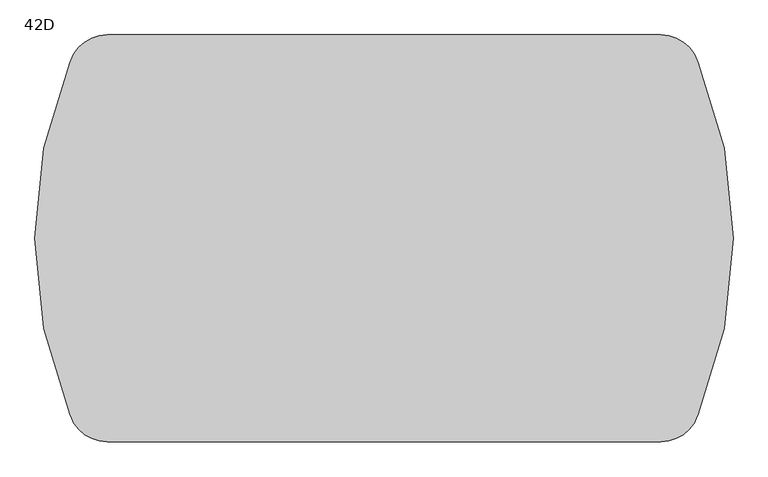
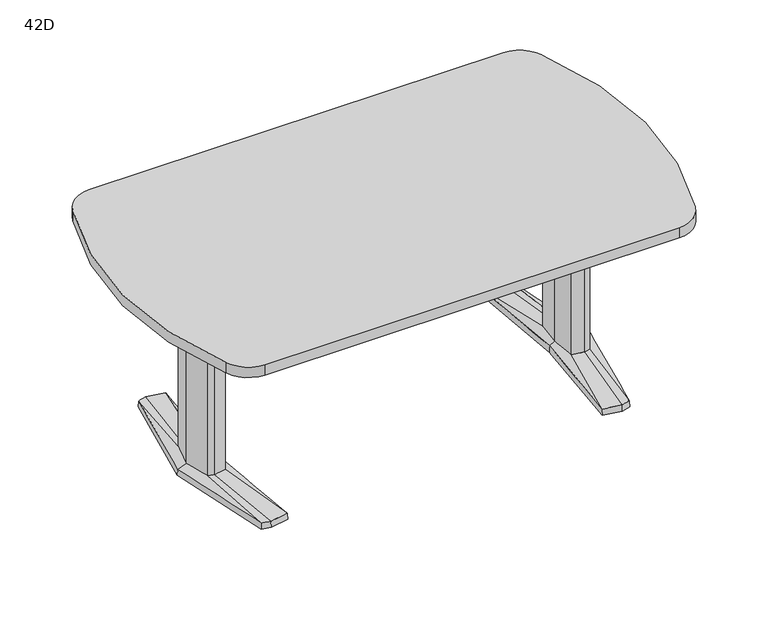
"""IFC4 building model written with IfcOpenShell, lengths in millimetres: furniture geometry, Coalesse_AM_Table_Conference_ETable2_SoftRadiused_72in_AluminiumBase : 42D."""

from ifc_helpers import new_model, si_unit, point, frame, frame_2d, origin, place, context, project, spatial, polyline, circle_curve, trimmed, segment, composite_curve, outline, extrude, source, transform, mapped, element, save
from ifc_brep_helpers import plane_surface, spline_surface, advanced_brep


def furniture_42d_55c07481(model_context):
    return source(origin(), model_context, "Body", "SolidModel", [
        advanced_brep(
        [(614.8503471, -379.3768856, 25.4), (644.5756636, -371.5332654, 25.4), (668.2327243, -89.293702, 36.5125), (648.9795254, -94.605478, 36.5125), (606.0521001, -87.0529327, 36.5125), (551.7612538, -368.5071562, 25.4), (597.9364207, 0.0, 36.5125), (579.8389754, 0.3970149, 25.4), (606.0521001, 87.0529327, 36.5125), (551.7615002, 368.5172593, 25.4), (648.9795254, 94.605478, 36.5125), (614.8502233, 379.3769183, 25.4), (668.2327243, 89.293702, 36.5125), (644.7535458, 371.4863276, 25.4), (692.1595251, 0.0, 36.5125), (721.4851663, 0.0003516, 25.4), (578.2468742, 0.3968871, 3.175), (550.06875, 369.8367279, 3.175), (614.9213004, 381.0, 3.175), (646.1093245, 372.7704151, 3.175), (723.10625, 0.0, 3.175), (645.9309817, -372.8174744, 3.175), (614.9213004, -381.0, 3.175), (550.06875, -369.8264415, 3.175), (649.5979264, 107.6121478, 3.175), (594.3065451, 97.8843184, 3.175), (585.1810887, 0.0, 3.175), (594.3065451, -97.8843184, 3.175), (649.5979264, -107.6121478, 3.175), (678.6183473, -99.6056872, 3.175), (705.3083085, 0.0, 3.175), (678.6183473, 99.6056872, 3.175), (613.4286812, 346.9152841, 3.175), (557.7811371, 337.3364985, 3.175), (560.1889918, 324.8641942, 3.175), (612.8600644, 333.9306305, 3.175), (648.6725609, 324.4807859, 3.175), (647.5544526, 337.9105158, 3.175), (613.4286812, -346.9152841, 3.175), (647.5544526, -337.9105158, 3.175), (648.6725609, -324.4807859, 3.175), (612.8600644, -333.9306305, 3.175), (560.1889918, -324.8641942, 3.175), (557.7811371, -337.3364985, 3.175), (649.5979264, 107.6121478, 0.0), (678.6183473, 99.6056872, 0.0), (705.3083085, 0.0, 0.0), (678.6183473, -99.6056872, 0.0), (649.5979264, -107.6121478, 0.0), (594.3065451, -97.8843184, 0.0), (585.1810887, 0.0, 0.0), (594.3065451, 97.8843184, 0.0), (613.4286812, 346.9152841, 0.0), (647.5544526, 337.9105158, 0.0), (648.6725609, 324.4807859, 0.0), (612.8600644, 333.9306305, 0.0), (560.1889918, 324.8641942, 0.0), (557.7811371, 337.3364985, 0.0), (613.4286812, -346.9152841, 0.0), (557.7811371, -337.3364985, 0.0), (560.1889918, -324.8641942, 0.0), (612.8600644, -333.9306305, 0.0), (648.6725609, -324.4807859, 0.0), (647.5544526, -337.9105158, 0.0), (668.2327243, 89.293702, 698.5), (648.9795254, 94.605478, 698.5), (606.0521001, 87.0529327, 698.5), (597.9364207, 0.0, 698.5), (606.0521001, -87.0529327, 698.5), (648.9795254, -94.605478, 698.5), (668.2327243, -89.293702, 698.5), (692.1595251, 0.0, 698.5)],
        [
            (0, 1),
            (1, 2),
            (2, 3),
            (3, 0),
            (3, 4),
            (4, 5),
            (5, 0),
            (4, 6),
            (6, 7),
            (7, 5),
            (6, 8),
            (8, 9),
            (9, 7),
            (8, 10),
            (10, 11),
            (11, 9),
            (10, 12),
            (12, 13),
            (13, 11),
            (12, 14),
            (14, 15),
            (15, 13),
            (1, 15),
            (14, 2),
            (16, 17),
            (17, 18),
            (18, 19),
            (19, 20),
            (20, 21),
            (21, 22),
            (22, 23),
            (23, 16),
            (24, 25),
            (25, 26),
            (26, 27),
            (27, 28),
            (28, 29),
            (29, 30),
            (30, 31),
            (31, 24),
            (32, 33),
            (33, 34),
            (34, 35),
            (35, 36),
            (36, 37),
            (37, 32),
            (38, 39),
            (39, 40),
            (40, 41),
            (41, 42),
            (42, 43),
            (43, 38),
            (16, 7),
            (9, 17),
            (11, 18),
            (13, 19),
            (15, 20),
            (1, 21),
            (0, 22),
            (5, 23),
            (44, 45),
            (45, 46),
            (46, 47),
            (47, 48),
            (48, 49),
            (49, 50),
            (50, 51),
            (51, 44),
            (52, 53),
            (53, 54),
            (54, 55),
            (55, 56),
            (56, 57),
            (57, 52),
            (58, 59),
            (59, 60),
            (60, 61),
            (61, 62),
            (62, 63),
            (63, 58),
            (44, 24),
            (31, 45),
            (30, 46),
            (29, 47),
            (28, 48),
            (27, 49),
            (26, 50),
            (25, 51),
            (52, 32),
            (37, 53),
            (36, 54),
            (35, 55),
            (34, 56),
            (33, 57),
            (58, 38),
            (43, 59),
            (42, 60),
            (41, 61),
            (40, 62),
            (39, 63),
            (64, 65),
            (65, 66),
            (66, 67),
            (67, 68),
            (68, 69),
            (69, 70),
            (70, 71),
            (71, 64),
            (71, 14),
            (12, 64),
            (70, 2),
            (69, 3),
            (68, 4),
            (67, 6),
            (66, 8),
            (65, 10),
        ],
        [
            spline_surface(1, 1, [[(644.5756636, -371.5332654, 25.4), (614.8503471, -379.3768856, 25.4)], [(668.2327243, -89.293702, 36.5125), (648.9795254, -94.605478, 36.5125)]], [2, 2], [2, 2], [0.0, 1.0], [0.0, 1.0]),
            spline_surface(1, 1, [[(614.8503471, -379.3768856, 25.4), (551.7612538, -368.5071562, 25.4)], [(648.9795254, -94.605478, 36.5125), (606.0521001, -87.0529327, 36.5125)]], [2, 2], [2, 2], [0.0, 1.0], [0.0, 1.0]),
            spline_surface(1, 1, [[(551.7612538, -368.5071562, 25.4), (579.8389754, 0.3970149, 25.4)], [(606.0521001, -87.0529327, 36.5125), (597.9364207, 0.0, 36.5125)]], [2, 2], [2, 2], [0.0, 1.0], [0.0, 1.0]),
            spline_surface(1, 1, [[(579.8389754, 0.3970149, 25.4), (551.7615002, 368.5172593, 25.4)], [(597.9364207, 0.0, 36.5125), (606.0521001, 87.0529327, 36.5125)]], [2, 2], [2, 2], [0.0, 1.0], [0.0, 1.0]),
            spline_surface(1, 1, [[(551.7615002, 368.5172593, 25.4), (614.8502233, 379.3769183, 25.4)], [(606.0521001, 87.0529327, 36.5125), (648.9795254, 94.605478, 36.5125)]], [2, 2], [2, 2], [0.0, 1.0], [0.0, 1.0]),
            spline_surface(1, 1, [[(614.8502233, 379.3769183, 25.4), (644.7535458, 371.4863276, 25.4)], [(648.9795254, 94.605478, 36.5125), (668.2327243, 89.293702, 36.5125)]], [2, 2], [2, 2], [0.0, 1.0], [0.0, 1.0]),
            spline_surface(1, 1, [[(644.7535458, 371.4863276, 25.4), (721.4851663, 0.0003516, 25.4)], [(668.2327243, 89.293702, 36.5125), (692.1595251, 0.0, 36.5125)]], [2, 2], [2, 2], [0.0, 1.0], [0.0, 1.0]),
            spline_surface(1, 1, [[(721.4851663, 0.0003516, 25.4), (644.5756636, -371.5332654, 25.4)], [(692.1595251, 0.0, 36.5125), (668.2327243, -89.293702, 36.5125)]], [2, 2], [2, 2], [0.0, 1.0], [0.0, 1.0]),
            plane_surface(frame((615.4216914, 0.0450143, 3.175), z_axis=(0.0, 0.0, -1.0), x_axis=(-0.9669048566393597, -0.2551372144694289, 0.0))),
            plane_surface(frame((564.1578121, 185.1168075, 3.175), z_axis=(-0.9945699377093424, -0.07585840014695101, 0.0712470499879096), x_axis=(-0.07605167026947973, 0.9971038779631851, 0.0))),
            plane_surface(frame((582.4950252, 375.418364, 3.175), z_axis=(-0.1692071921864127, 0.9830019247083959, 0.07124704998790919), x_axis=(0.985506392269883, 0.16963829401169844, 0.0))),
            plane_surface(frame((630.5153124, 376.8852076, 3.175), z_axis=(0.2544888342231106, 0.9644476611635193, 0.07124704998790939), x_axis=(0.9669048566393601, -0.25513721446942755, 0.0))),
            plane_surface(frame((684.6077872, 186.3852076, 3.175), z_axis=(0.9768383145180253, 0.2017690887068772, 0.07124704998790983), x_axis=(0.20228315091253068, -0.9793270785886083, 0.0))),
            plane_surface(frame((684.5186158, -186.4087372, 3.175), z_axis=(0.9767507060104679, -0.20219276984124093, 0.07124704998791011), x_axis=(-0.2027079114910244, -0.9792392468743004, 0.0))),
            plane_surface(frame((630.426141, -376.9087372, 3.175), z_axis=(0.2544888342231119, -0.9644476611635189, 0.0712470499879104), x_axis=(-0.9669048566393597, -0.2551372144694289, 0.0))),
            plane_surface(frame((582.4950252, -375.4132207, 3.175), z_axis=(-0.16935861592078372, -0.982975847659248, 0.07124704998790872), x_axis=(-0.9854802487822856, 0.16979010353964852, 0.0))),
            plane_surface(frame((564.1578121, -184.7147772, 3.175), z_axis=(-0.9945820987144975, 0.07569878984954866, 0.07124704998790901), x_axis=(0.07589165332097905, 0.9971160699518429, 0.0))),
            plane_surface(frame((652.3571479, 106.8509046, 0.0), z_axis=(0.0, 0.0, -1.0000000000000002), x_axis=(-0.9639855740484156, 0.26595453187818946, 0.0))),
            plane_surface(frame((649.5979264, 107.6121478, 3.175), z_axis=(0.26595453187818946, 0.9639855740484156, 0.0), x_axis=(0.0, 0.0, -1.0))),
            plane_surface(frame((678.6183473, 99.6056872, 3.175), z_axis=(0.9659241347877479, 0.2588253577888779, 0.0), x_axis=(0.0, 0.0, -1.0))),
            plane_surface(frame((705.3083085, 0.0, 3.175), z_axis=(0.9659241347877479, -0.2588253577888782, 0.0), x_axis=(0.0, 0.0, -1.0))),
            plane_surface(frame((678.6183473, -99.6056872, 3.175), z_axis=(0.26595453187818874, -0.9639855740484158, 0.0), x_axis=(0.0, 0.0, -1.0))),
            plane_surface(frame((649.5979264, -107.6121478, 3.175), z_axis=(-0.17327617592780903, -0.9848732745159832, 0.0), x_axis=(0.0, 0.0, -1.0))),
            plane_surface(frame((594.3065451, -97.8843184, 3.175), z_axis=(-0.9956824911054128, -0.0928244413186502, 0.0), x_axis=(0.0, 0.0, -1.0))),
            plane_surface(frame((585.1810887, 0.0, 3.175), z_axis=(-0.9956824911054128, 0.09282444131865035, 0.0), x_axis=(0.0, 0.0, -1.0))),
            plane_surface(frame((594.3065451, 97.8843184, 3.175), z_axis=(-0.17327617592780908, 0.984873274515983, 0.0), x_axis=(0.0, 0.0, -1.0))),
            plane_surface(frame((613.4286812, 346.9152841, 3.175), z_axis=(0.25513721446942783, 0.9669048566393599, 0.0), x_axis=(0.0, 0.0, -1.0))),
            plane_surface(frame((647.5544526, 337.9105158, 3.175), z_axis=(0.9965521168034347, 0.0829691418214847, 0.0), x_axis=(0.0, 0.0, -1.0))),
            plane_surface(frame((648.6725609, 324.4807859, 3.175), z_axis=(-0.25513721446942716, -0.9669048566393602, 0.0), x_axis=(0.0, 0.0, -1.0))),
            plane_surface(frame((612.8600644, 333.9306305, 3.175), z_axis=(0.16963829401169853, -0.985506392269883, 0.0), x_axis=(0.0, 0.0, -1.0))),
            plane_surface(frame((560.1889918, 324.8641942, 3.175), z_axis=(-0.9818699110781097, -0.18955600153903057, 0.0), x_axis=(0.0, 0.0, -1.0))),
            plane_surface(frame((557.7811371, 337.3364985, 3.175), z_axis=(-0.16963829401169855, 0.9855063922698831, 0.0), x_axis=(0.0, 0.0, -1.0))),
            plane_surface(frame((613.4286812, -346.9152841, 3.175), z_axis=(-0.1696382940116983, -0.9855063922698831, 0.0), x_axis=(0.0, 0.0, -1.0))),
            plane_surface(frame((557.7811371, -337.3364985, 3.175), z_axis=(-0.9818699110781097, 0.18955600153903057, 0.0), x_axis=(0.0, 0.0, -1.0))),
            plane_surface(frame((560.1889918, -324.8641942, 3.175), z_axis=(0.16963829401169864, 0.985506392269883, 0.0), x_axis=(0.0, 0.0, -1.0))),
            plane_surface(frame((612.8600644, -333.9306305, 3.175), z_axis=(-0.2551372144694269, 0.9669048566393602, 0.0), x_axis=(0.0, 0.0, -1.0))),
            plane_surface(frame((648.6725609, -324.4807859, 3.175), z_axis=(0.9965521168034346, -0.0829691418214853, 0.0), x_axis=(0.0, 0.0, -1.0))),
            plane_surface(frame((647.5544526, -337.9105158, 3.175), z_axis=(0.2551372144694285, -0.9669048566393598, 0.0), x_axis=(0.0, 0.0, -1.0))),
            plane_surface(frame((692.1595251, 0.0, 698.5), z_axis=(0.0, 0.0, 1.0), x_axis=(0.25882535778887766, -0.965924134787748, 0.0))),
            plane_surface(frame((668.2327243, 89.293702, 698.5), z_axis=(0.965924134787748, 0.25882535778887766, 0.0), x_axis=(0.0, 0.0, -1.0))),
            plane_surface(frame((692.1595251, 0.0, 698.5), z_axis=(0.965924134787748, -0.2588253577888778, 0.0), x_axis=(0.0, 0.0, -1.0))),
            plane_surface(frame((668.2327243, -89.293702, 698.5), z_axis=(0.2659545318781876, -0.963985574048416, 0.0), x_axis=(0.0, 0.0, -1.0))),
            plane_surface(frame((648.9795254, -94.605478, 698.5), z_axis=(-0.1732761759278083, -0.9848732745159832, 0.0), x_axis=(0.0, 0.0, -1.0))),
            plane_surface(frame((606.0521001, -87.0529327, 698.5), z_axis=(-0.9956824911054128, -0.0928244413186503, 0.0), x_axis=(0.0, 0.0, -1.0))),
            plane_surface(frame((597.9364207, 0.0, 698.5), z_axis=(-0.9956824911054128, 0.09282444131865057, 0.0), x_axis=(0.0, 0.0, -1.0))),
            plane_surface(frame((606.0521001, 87.0529327, 698.5), z_axis=(-0.17327617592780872, 0.9848732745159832, 0.0), x_axis=(0.0, 0.0, -1.0))),
            plane_surface(frame((648.9795254, 94.605478, 698.5), z_axis=(0.26595453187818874, 0.9639855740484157, 0.0), x_axis=(0.0, 0.0, -1.0))),
        ],
        [
            (0, [[1, 2, 3, 4]]),
            (1, [[5, 6, 7, -4]]),
            (2, [[8, 9, 10, -6]]),
            (3, [[11, 12, 13, -9]]),
            (4, [[14, 15, 16, -12]]),
            (5, [[17, 18, 19, -15]]),
            (6, [[20, 21, 22, -18]]),
            (7, [[23, -21, 24, -2]]),
            (8, [[25, 26, 27, 28, 29, 30, 31, 32], [33, 34, 35, 36, 37, 38, 39, 40], [41, 42, 43, 44, 45, 46], [47, 48, 49, 50, 51, 52]]),
            (9, [[53, -13, 54, -25]]),
            (10, [[-54, -16, 55, -26]]),
            (11, [[-55, -19, 56, -27]]),
            (12, [[-56, -22, 57, -28]]),
            (13, [[-57, -23, 58, -29]]),
            (14, [[-58, -1, 59, -30]]),
            (15, [[-59, -7, 60, -31]]),
            (16, [[-60, -10, -53, -32]]),
            (17, [[61, 62, 63, 64, 65, 66, 67, 68]]),
            (17, [[69, 70, 71, 72, 73, 74]]),
            (17, [[75, 76, 77, 78, 79, 80]]),
            (18, [[81, -40, 82, -61]]),
            (19, [[-82, -39, 83, -62]]),
            (20, [[-83, -38, 84, -63]]),
            (21, [[-84, -37, 85, -64]]),
            (22, [[-85, -36, 86, -65]]),
            (23, [[-86, -35, 87, -66]]),
            (24, [[-87, -34, 88, -67]]),
            (25, [[-88, -33, -81, -68]]),
            (26, [[89, -46, 90, -69]]),
            (27, [[-90, -45, 91, -70]]),
            (28, [[-91, -44, 92, -71]]),
            (29, [[-92, -43, 93, -72]]),
            (30, [[-93, -42, 94, -73]]),
            (31, [[-94, -41, -89, -74]]),
            (32, [[95, -52, 96, -75]]),
            (33, [[-96, -51, 97, -76]]),
            (34, [[-97, -50, 98, -77]]),
            (35, [[-98, -49, 99, -78]]),
            (36, [[-99, -48, 100, -79]]),
            (37, [[-100, -47, -95, -80]]),
            (38, [[101, 102, 103, 104, 105, 106, 107, 108]]),
            (39, [[109, -20, 110, -108]]),
            (40, [[111, -24, -109, -107]]),
            (41, [[112, -3, -111, -106]]),
            (42, [[113, -5, -112, -105]]),
            (43, [[114, -8, -113, -104]]),
            (44, [[115, -11, -114, -103]]),
            (45, [[116, -14, -115, -102]]),
            (46, [[-110, -17, -116, -101]]),
        ],
    ),
        advanced_brep(
        [(-614.8503471, -379.3768856, 25.4), (-648.9795254, -94.605478, 36.5125), (-668.2327243, -89.293702, 36.5125), (-644.5756636, -371.5332654, 25.4), (-551.7612538, -368.5071562, 25.4), (-606.0521001, -87.0529327, 36.5125), (-579.8389754, 0.3970149, 25.4), (-597.9364207, 0.0, 36.5125), (-551.7615002, 368.5172593, 25.4), (-606.0521001, 87.0529327, 36.5125), (-614.8502233, 379.3769183, 25.4), (-648.9795254, 94.605478, 36.5125), (-644.7535458, 371.4863276, 25.4), (-668.2327243, 89.293702, 36.5125), (-721.4851663, 0.0003516, 25.4), (-692.1595251, 0.0, 36.5125), (-578.2468742, 0.3968871, 3.175), (-550.06875, -369.8264415, 3.175), (-614.9213004, -381.0, 3.175), (-645.9309817, -372.8174744, 3.175), (-723.10625, 0.0, 3.175), (-646.1093245, 372.7704151, 3.175), (-614.9213004, 381.0, 3.175), (-550.06875, 369.8367279, 3.175), (-649.5979264, 107.6121478, 3.175), (-678.6183473, 99.6056872, 3.175), (-705.3083085, 0.0, 3.175), (-678.6183473, -99.6056872, 3.175), (-649.5979264, -107.6121478, 3.175), (-594.3065451, -97.8843184, 3.175), (-585.1810887, 0.0, 3.175), (-594.3065451, 97.8843184, 3.175), (-613.4286812, 346.9152841, 3.175), (-647.5544526, 337.9105158, 3.175), (-648.6725609, 324.4807859, 3.175), (-612.8600644, 333.9306305, 3.175), (-560.1889918, 324.8641942, 3.175), (-557.7811371, 337.3364985, 3.175), (-613.4286812, -346.9152841, 3.175), (-557.7811371, -337.3364985, 3.175), (-560.1889918, -324.8641942, 3.175), (-612.8600644, -333.9306305, 3.175), (-648.6725609, -324.4807859, 3.175), (-647.5544526, -337.9105158, 3.175), (-649.5979264, 107.6121478, 0.0), (-594.3065451, 97.8843184, 0.0), (-585.1810887, 0.0, 0.0), (-594.3065451, -97.8843184, 0.0), (-649.5979264, -107.6121478, 0.0), (-678.6183473, -99.6056872, 0.0), (-705.3083085, 0.0, 0.0), (-678.6183473, 99.6056872, 0.0), (-613.4286812, 346.9152841, 0.0), (-557.7811371, 337.3364985, 0.0), (-560.1889918, 324.8641942, 0.0), (-612.8600644, 333.9306305, 0.0), (-648.6725609, 324.4807859, 0.0), (-647.5544526, 337.9105158, 0.0), (-613.4286812, -346.9152841, 0.0), (-647.5544526, -337.9105158, 0.0), (-648.6725609, -324.4807859, 0.0), (-612.8600644, -333.9306305, 0.0), (-560.1889918, -324.8641942, 0.0), (-557.7811371, -337.3364985, 0.0), (-668.2327243, 89.293702, 698.5), (-692.1595251, 0.0, 698.5), (-668.2327243, -89.293702, 698.5), (-648.9795254, -94.605478, 698.5), (-606.0521001, -87.0529327, 698.5), (-597.9364207, 0.0, 698.5), (-606.0521001, 87.0529327, 698.5), (-648.9795254, 94.605478, 698.5)],
        [
            (0, 1),
            (1, 2),
            (2, 3),
            (3, 0),
            (0, 4),
            (4, 5),
            (5, 1),
            (4, 6),
            (6, 7),
            (7, 5),
            (6, 8),
            (8, 9),
            (9, 7),
            (8, 10),
            (10, 11),
            (11, 9),
            (10, 12),
            (12, 13),
            (13, 11),
            (12, 14),
            (14, 15),
            (15, 13),
            (2, 15),
            (14, 3),
            (16, 17),
            (17, 18),
            (18, 19),
            (19, 20),
            (20, 21),
            (21, 22),
            (22, 23),
            (23, 16),
            (24, 25),
            (25, 26),
            (26, 27),
            (27, 28),
            (28, 29),
            (29, 30),
            (30, 31),
            (31, 24),
            (32, 33),
            (33, 34),
            (34, 35),
            (35, 36),
            (36, 37),
            (37, 32),
            (38, 39),
            (39, 40),
            (40, 41),
            (41, 42),
            (42, 43),
            (43, 38),
            (23, 8),
            (6, 16),
            (22, 10),
            (21, 12),
            (20, 14),
            (19, 3),
            (18, 0),
            (17, 4),
            (44, 45),
            (45, 46),
            (46, 47),
            (47, 48),
            (48, 49),
            (49, 50),
            (50, 51),
            (51, 44),
            (52, 53),
            (53, 54),
            (54, 55),
            (55, 56),
            (56, 57),
            (57, 52),
            (58, 59),
            (59, 60),
            (60, 61),
            (61, 62),
            (62, 63),
            (63, 58),
            (51, 25),
            (24, 44),
            (50, 26),
            (49, 27),
            (48, 28),
            (47, 29),
            (46, 30),
            (45, 31),
            (57, 33),
            (32, 52),
            (56, 34),
            (55, 35),
            (54, 36),
            (53, 37),
            (63, 39),
            (38, 58),
            (62, 40),
            (61, 41),
            (60, 42),
            (59, 43),
            (64, 65),
            (65, 66),
            (66, 67),
            (67, 68),
            (68, 69),
            (69, 70),
            (70, 71),
            (71, 64),
            (64, 13),
            (15, 65),
            (2, 66),
            (1, 67),
            (5, 68),
            (7, 69),
            (9, 70),
            (11, 71),
        ],
        [
            spline_surface(1, 1, [[(-644.5756636, -371.5332654, 25.4), (-668.2327243, -89.293702, 36.5125)], [(-614.8503471, -379.3768856, 25.4), (-648.9795254, -94.605478, 36.5125)]], [2, 2], [2, 2], [0.0, 1.0], [0.0, 1.0]),
            spline_surface(1, 1, [[(-614.8503471, -379.3768856, 25.4), (-648.9795254, -94.605478, 36.5125)], [(-551.7612538, -368.5071562, 25.4), (-606.0521001, -87.0529327, 36.5125)]], [2, 2], [2, 2], [0.0, 1.0], [0.0, 1.0]),
            spline_surface(1, 1, [[(-551.7612538, -368.5071562, 25.4), (-606.0521001, -87.0529327, 36.5125)], [(-579.8389754, 0.3970149, 25.4), (-597.9364207, 0.0, 36.5125)]], [2, 2], [2, 2], [0.0, 1.0], [0.0, 1.0]),
            spline_surface(1, 1, [[(-579.8389754, 0.3970149, 25.4), (-597.9364207, 0.0, 36.5125)], [(-551.7615002, 368.5172593, 25.4), (-606.0521001, 87.0529327, 36.5125)]], [2, 2], [2, 2], [0.0, 1.0], [0.0, 1.0]),
            spline_surface(1, 1, [[(-551.7615002, 368.5172593, 25.4), (-606.0521001, 87.0529327, 36.5125)], [(-614.8502233, 379.3769183, 25.4), (-648.9795254, 94.605478, 36.5125)]], [2, 2], [2, 2], [0.0, 1.0], [0.0, 1.0]),
            spline_surface(1, 1, [[(-614.8502233, 379.3769183, 25.4), (-648.9795254, 94.605478, 36.5125)], [(-644.7535458, 371.4863276, 25.4), (-668.2327243, 89.293702, 36.5125)]], [2, 2], [2, 2], [0.0, 1.0], [0.0, 1.0]),
            spline_surface(1, 1, [[(-644.7535458, 371.4863276, 25.4), (-668.2327243, 89.293702, 36.5125)], [(-721.4851663, 0.0003516, 25.4), (-692.1595251, 0.0, 36.5125)]], [2, 2], [2, 2], [0.0, 1.0], [0.0, 1.0]),
            spline_surface(1, 1, [[(-721.4851663, 0.0003516, 25.4), (-692.1595251, 0.0, 36.5125)], [(-644.5756636, -371.5332654, 25.4), (-668.2327243, -89.293702, 36.5125)]], [2, 2], [2, 2], [0.0, 1.0], [0.0, 1.0]),
            plane_surface(frame((-615.4216914, 0.0450143, 3.175), z_axis=(0.0, 0.0, -1.0), x_axis=(0.9669048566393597, -0.2551372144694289, 0.0))),
            plane_surface(frame((-564.1578121, 185.1168075, 3.175), z_axis=(0.9945699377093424, -0.07585840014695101, 0.0712470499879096), x_axis=(0.07605167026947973, 0.9971038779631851, 0.0))),
            plane_surface(frame((-582.4950252, 375.418364, 3.175), z_axis=(0.1692071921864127, 0.9830019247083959, 0.07124704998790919), x_axis=(-0.985506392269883, 0.16963829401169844, 0.0))),
            plane_surface(frame((-630.5153124, 376.8852076, 3.175), z_axis=(-0.2544888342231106, 0.9644476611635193, 0.07124704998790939), x_axis=(-0.9669048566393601, -0.25513721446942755, 0.0))),
            plane_surface(frame((-684.6077872, 186.3852076, 3.175), z_axis=(-0.9768383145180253, 0.2017690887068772, 0.07124704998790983), x_axis=(-0.20228315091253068, -0.9793270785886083, 0.0))),
            plane_surface(frame((-684.5186158, -186.4087372, 3.175), z_axis=(-0.9767507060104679, -0.20219276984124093, 0.07124704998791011), x_axis=(0.2027079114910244, -0.9792392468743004, 0.0))),
            plane_surface(frame((-630.426141, -376.9087372, 3.175), z_axis=(-0.2544888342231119, -0.9644476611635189, 0.0712470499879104), x_axis=(0.9669048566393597, -0.2551372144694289, 0.0))),
            plane_surface(frame((-582.4950252, -375.4132207, 3.175), z_axis=(0.16935861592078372, -0.982975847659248, 0.07124704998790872), x_axis=(0.9854802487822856, 0.16979010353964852, 0.0))),
            plane_surface(frame((-564.1578121, -184.7147772, 3.175), z_axis=(0.9945820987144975, 0.07569878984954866, 0.07124704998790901), x_axis=(-0.07589165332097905, 0.9971160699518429, 0.0))),
            plane_surface(frame((-652.3571479, 106.8509046, 0.0), z_axis=(0.0, 0.0, -1.0000000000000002), x_axis=(0.9639855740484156, 0.26595453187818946, 0.0))),
            plane_surface(frame((-649.5979264, 107.6121478, 3.175), z_axis=(-0.26595453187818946, 0.9639855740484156, 0.0), x_axis=(0.0, 0.0, -1.0))),
            plane_surface(frame((-678.6183473, 99.6056872, 3.175), z_axis=(-0.9659241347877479, 0.2588253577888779, 0.0), x_axis=(0.0, 0.0, -1.0))),
            plane_surface(frame((-705.3083085, 0.0, 3.175), z_axis=(-0.9659241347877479, -0.2588253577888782, 0.0), x_axis=(0.0, 0.0, -1.0))),
            plane_surface(frame((-678.6183473, -99.6056872, 3.175), z_axis=(-0.26595453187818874, -0.9639855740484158, 0.0), x_axis=(0.0, 0.0, -1.0))),
            plane_surface(frame((-649.5979264, -107.6121478, 3.175), z_axis=(0.17327617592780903, -0.9848732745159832, 0.0), x_axis=(0.0, 0.0, -1.0))),
            plane_surface(frame((-594.3065451, -97.8843184, 3.175), z_axis=(0.9956824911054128, -0.0928244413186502, 0.0), x_axis=(0.0, 0.0, -1.0))),
            plane_surface(frame((-585.1810887, 0.0, 3.175), z_axis=(0.9956824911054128, 0.09282444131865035, 0.0), x_axis=(0.0, 0.0, -1.0))),
            plane_surface(frame((-594.3065451, 97.8843184, 3.175), z_axis=(0.17327617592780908, 0.984873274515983, 0.0), x_axis=(0.0, 0.0, -1.0))),
            plane_surface(frame((-613.4286812, 346.9152841, 3.175), z_axis=(-0.25513721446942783, 0.9669048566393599, 0.0), x_axis=(0.0, 0.0, -1.0))),
            plane_surface(frame((-647.5544526, 337.9105158, 3.175), z_axis=(-0.9965521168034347, 0.0829691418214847, 0.0), x_axis=(0.0, 0.0, -1.0))),
            plane_surface(frame((-648.6725609, 324.4807859, 3.175), z_axis=(0.25513721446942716, -0.9669048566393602, 0.0), x_axis=(0.0, 0.0, -1.0))),
            plane_surface(frame((-612.8600644, 333.9306305, 3.175), z_axis=(-0.16963829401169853, -0.985506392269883, 0.0), x_axis=(0.0, 0.0, -1.0))),
            plane_surface(frame((-560.1889918, 324.8641942, 3.175), z_axis=(0.9818699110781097, -0.18955600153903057, 0.0), x_axis=(0.0, 0.0, -1.0))),
            plane_surface(frame((-557.7811371, 337.3364985, 3.175), z_axis=(0.16963829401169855, 0.9855063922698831, 0.0), x_axis=(0.0, 0.0, -1.0))),
            plane_surface(frame((-613.4286812, -346.9152841, 3.175), z_axis=(0.1696382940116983, -0.9855063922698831, 0.0), x_axis=(0.0, 0.0, -1.0))),
            plane_surface(frame((-557.7811371, -337.3364985, 3.175), z_axis=(0.9818699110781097, 0.18955600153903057, 0.0), x_axis=(0.0, 0.0, -1.0))),
            plane_surface(frame((-560.1889918, -324.8641942, 3.175), z_axis=(-0.16963829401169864, 0.985506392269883, 0.0), x_axis=(0.0, 0.0, -1.0))),
            plane_surface(frame((-612.8600644, -333.9306305, 3.175), z_axis=(0.2551372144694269, 0.9669048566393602, 0.0), x_axis=(0.0, 0.0, -1.0))),
            plane_surface(frame((-648.6725609, -324.4807859, 3.175), z_axis=(-0.9965521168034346, -0.0829691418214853, 0.0), x_axis=(0.0, 0.0, -1.0))),
            plane_surface(frame((-647.5544526, -337.9105158, 3.175), z_axis=(-0.2551372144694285, -0.9669048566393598, 0.0), x_axis=(0.0, 0.0, -1.0))),
            plane_surface(frame((-692.1595251, 0.0, 698.5), z_axis=(0.0, 0.0, 1.0), x_axis=(-0.25882535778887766, -0.965924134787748, 0.0))),
            plane_surface(frame((-668.2327243, 89.293702, 698.5), z_axis=(-0.965924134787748, 0.25882535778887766, 0.0), x_axis=(0.0, 0.0, -1.0))),
            plane_surface(frame((-692.1595251, 0.0, 698.5), z_axis=(-0.965924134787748, -0.2588253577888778, 0.0), x_axis=(0.0, 0.0, -1.0))),
            plane_surface(frame((-668.2327243, -89.293702, 698.5), z_axis=(-0.2659545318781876, -0.963985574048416, 0.0), x_axis=(0.0, 0.0, -1.0))),
            plane_surface(frame((-648.9795254, -94.605478, 698.5), z_axis=(0.1732761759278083, -0.9848732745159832, 0.0), x_axis=(0.0, 0.0, -1.0))),
            plane_surface(frame((-606.0521001, -87.0529327, 698.5), z_axis=(0.9956824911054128, -0.0928244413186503, 0.0), x_axis=(0.0, 0.0, -1.0))),
            plane_surface(frame((-597.9364207, 0.0, 698.5), z_axis=(0.9956824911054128, 0.09282444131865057, 0.0), x_axis=(0.0, 0.0, -1.0))),
            plane_surface(frame((-606.0521001, 87.0529327, 698.5), z_axis=(0.17327617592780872, 0.9848732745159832, 0.0), x_axis=(0.0, 0.0, -1.0))),
            plane_surface(frame((-648.9795254, 94.605478, 698.5), z_axis=(-0.26595453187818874, 0.9639855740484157, 0.0), x_axis=(0.0, 0.0, -1.0))),
        ],
        [
            (0, [[1, 2, 3, 4]]),
            (1, [[-1, 5, 6, 7]]),
            (2, [[-6, 8, 9, 10]]),
            (3, [[-9, 11, 12, 13]]),
            (4, [[-12, 14, 15, 16]]),
            (5, [[-15, 17, 18, 19]]),
            (6, [[-18, 20, 21, 22]]),
            (7, [[-3, 23, -21, 24]]),
            (8, [[25, 26, 27, 28, 29, 30, 31, 32], [33, 34, 35, 36, 37, 38, 39, 40], [41, 42, 43, 44, 45, 46], [47, 48, 49, 50, 51, 52]]),
            (9, [[-32, 53, -11, 54]]),
            (10, [[-31, 55, -14, -53]]),
            (11, [[-30, 56, -17, -55]]),
            (12, [[-29, 57, -20, -56]]),
            (13, [[-28, 58, -24, -57]]),
            (14, [[-27, 59, -4, -58]]),
            (15, [[-26, 60, -5, -59]]),
            (16, [[-25, -54, -8, -60]]),
            (17, [[61, 62, 63, 64, 65, 66, 67, 68]]),
            (17, [[69, 70, 71, 72, 73, 74]]),
            (17, [[75, 76, 77, 78, 79, 80]]),
            (18, [[-68, 81, -33, 82]]),
            (19, [[-67, 83, -34, -81]]),
            (20, [[-66, 84, -35, -83]]),
            (21, [[-65, 85, -36, -84]]),
            (22, [[-64, 86, -37, -85]]),
            (23, [[-63, 87, -38, -86]]),
            (24, [[-62, 88, -39, -87]]),
            (25, [[-61, -82, -40, -88]]),
            (26, [[-74, 89, -41, 90]]),
            (27, [[-73, 91, -42, -89]]),
            (28, [[-72, 92, -43, -91]]),
            (29, [[-71, 93, -44, -92]]),
            (30, [[-70, 94, -45, -93]]),
            (31, [[-69, -90, -46, -94]]),
            (32, [[-80, 95, -47, 96]]),
            (33, [[-79, 97, -48, -95]]),
            (34, [[-78, 98, -49, -97]]),
            (35, [[-77, 99, -50, -98]]),
            (36, [[-76, 100, -51, -99]]),
            (37, [[-75, -96, -52, -100]]),
            (38, [[101, 102, 103, 104, 105, 106, 107, 108]]),
            (39, [[-101, 109, -22, 110]]),
            (40, [[-102, -110, -23, 111]]),
            (41, [[-103, -111, -2, 112]]),
            (42, [[-104, -112, -7, 113]]),
            (43, [[-105, -113, -10, 114]]),
            (44, [[-106, -114, -13, 115]]),
            (45, [[-107, -115, -16, 116]]),
            (46, [[-108, -116, -19, -109]]),
        ],
    ),
        extrude(outline(polyline([(96.8375, 698.5), (103.1875, 698.5), (103.1875, 476.25), (-103.1875, 476.25), (-103.1875, 698.5), (-96.8375, 698.5), (-96.8375, 482.6), (96.8375, 482.6), (96.8375, 698.5)])), frame((-597.9364207, 0.0, 0.0), z_axis=(1.0, 0.0, 0.0), x_axis=(0.0, 1.0, 0.0)), (0.0, 0.0, 1.0), 1195.8728415),
        extrude(outline(composite_curve([segment(polyline([(-821.0457112, -465.6652296), (-821.8015465, -463.5273037)]), True, "CONTINUOUS"), segment(trimmed(circle_curve(frame_2d((292.0631869, 0.0013115)), 1206.4631869), [point((-821.8015465, -463.5273037))], [point((-821.7956256, 463.5441544))], False, "CARTESIAN"), True, "CONTINUOUS"), segment(polyline([(-821.7956256, 463.5441544), (-821.0453442, 465.6662966)]), True, "CONTINUOUS"), segment(trimmed(circle_curve(frame_2d((-725.2558148, 431.8)), 101.6), [point((-821.0453442, 465.6662966))], [point((-725.2558148, 533.4))], False, "CARTESIAN"), True, "CONTINUOUS"), segment(polyline([(-725.2558148, 533.4), (725.2557872, 533.4)]), True, "CONTINUOUS"), segment(trimmed(circle_curve(frame_2d((725.2557872, 431.7999756)), 101.6000244), [point((725.2557872, 533.4))], [point((821.0457112, 465.6652296))], False, "CARTESIAN"), True, "CONTINUOUS"), segment(polyline([(821.0457112, 465.6652296), (821.8015465, 463.5298232)]), True, "CONTINUOUS"), segment(trimmed(circle_curve(frame_2d((-292.0694929, -5.18e-05)), 1206.4694929), [point((821.8015465, 463.5298232))], [point((821.7956256, -463.5441544))], False, "CARTESIAN"), True, "CONTINUOUS"), segment(polyline([(821.7956256, -463.5441544), (821.0453442, -465.6662966)]), True, "CONTINUOUS"), segment(trimmed(circle_curve(frame_2d((725.2558148, -431.8)), 101.6), [point((821.0453442, -465.6662966))], [point((725.2558148, -533.4))], False, "CARTESIAN"), True, "CONTINUOUS"), segment(polyline([(725.2558148, -533.4), (-725.2557872, -533.4)]), True, "CONTINUOUS"), segment(trimmed(circle_curve(frame_2d((-725.2557872, -431.7999756)), 101.6000244), [point((-725.2557872, -533.4))], [point((-821.0457112, -465.6652296))], False, "CARTESIAN"), True, "CONTINUOUS")], self_intersect=False)), frame((0.0, 0.0, 698.5), z_axis=(0.0, 0.0, 1.0), x_axis=(1.0, 0.0, 0.0)), (0.0, 0.0, 1.0), 38.1),
    ])


if __name__ == "__main__":
    model = new_model("IFC4")
    model_context = context("Model", 3, world=origin())
    ifc_project = project(units=[si_unit("LENGTHUNIT", "METRE", prefix="MILLI")], contexts=[model_context])
    site = spatial("IfcSite", under=ifc_project)
    building = spatial("IfcBuilding", under=site)
    placement = place(None, origin())
    furniture_42d_shape = furniture_42d_55c07481(model_context)
    element("IfcFurniture", 1, ObjectType="Coalesse_AM_Table_Conference_ETable2_SoftRadiused_72in_AluminiumBase : 42D", at=placement, inside=building, context=model_context, shape_type="MappedRepresentation", body=[
        mapped(furniture_42d_shape, transform((0.0, 0.0, 0.0), x_axis=(1.0, 0.0, 0.0), y_axis=(0.0, 1.0, 0.0), z_axis=(0.0, 0.0, 1.0))),
    ])
    save(model, "model.ifc")
